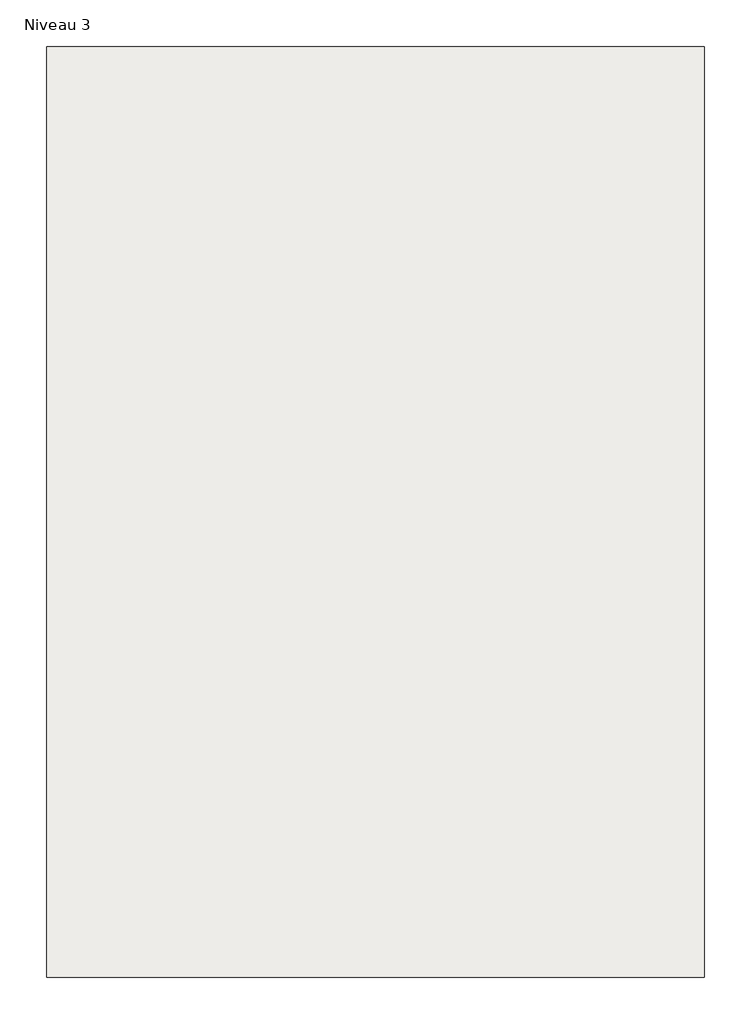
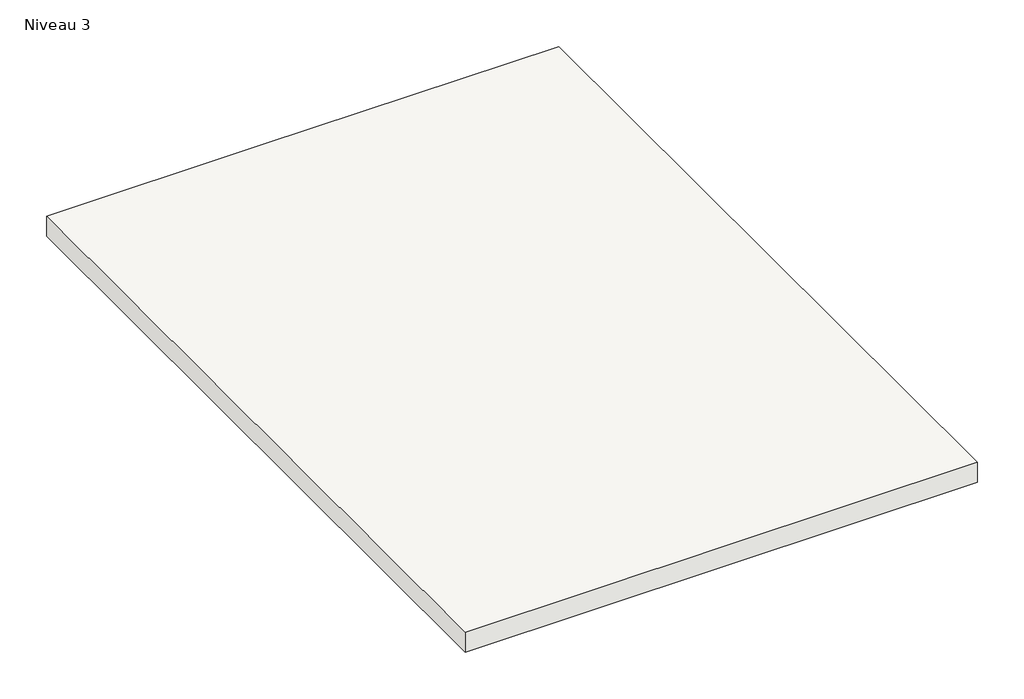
# One storey: 1 slab.
"""IFC4 building model written with IfcOpenShell, lengths in millimetres."""

from ifc_helpers import new_model, si_unit, origin, place, context, project, spatial, faceted_brep, element, save

model = new_model("IFC4")

# Units and contexts
model_context = context("Model", 3, world=origin())
ifc_project = project(units=[si_unit("LENGTHUNIT", "METRE", prefix="MILLI")], contexts=[model_context])

# Site, building, storey
site = spatial("IfcSite", under=ifc_project)
building = spatial("IfcBuilding", under=site)
storey = spatial("IfcBuildingStorey", under=building, Name="Niveau 3", Elevation=2700.0)

# Slab
placement = place(None, origin())
element("IfcSlab", 1, ObjectType="Générique  200 mm", at=placement, inside=storey, context=model_context, shape_type="Brep", body=[
    faceted_brep([(-3355.7482739, 4264.9077015, 2500.0), (-3355.7482739, -2615.0922985, 2500.0), (-8215.7482739, -2615.0922985, 2500.0), (-8215.7482739, 4264.9077015, 2500.0), (-3355.7482739, 4264.9077015, 2700.0), (-4275.7482739, 4264.9077015, 2700.0), (-6175.7482739, 4264.9077015, 2700.0), (-8215.7482739, 4264.9077015, 2700.0), (-8215.7482739, -2615.0922985, 2700.0), (-3355.7482739, -2615.0922985, 2700.0)], [[[0, 1, 2, 3]], [[4, 5, 6, 7, 8, 9]], [[1, 0, 4, 9]], [[2, 1, 9, 8]], [[3, 2, 8, 7]], [[0, 3, 7, 6, 5, 4]]]),
])

save(model, "model.ifc")
